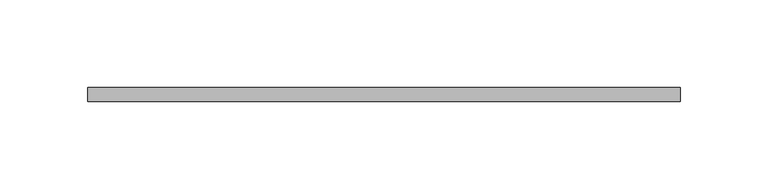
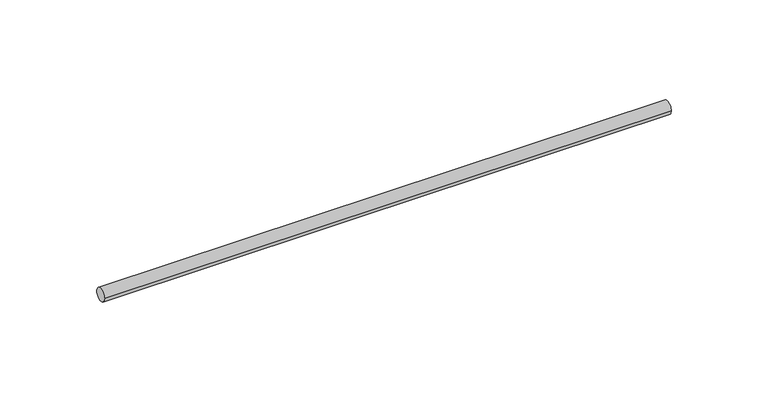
"""IFC4 building model written with IfcOpenShell, lengths in millimetres: valve geometry, Superfix Threaded Rod (used for clamps) : Threaded Rod  Extra  - 1000 mm (used for clamps)."""

from ifc_helpers import new_model, si_unit, point, frame, origin, origin_2d, place, context, project, spatial, circle_curve, trimmed, segment, composite_curve, outline, extrude, source, transform, mapped, element, save


def valve_ca0dcec8(model_context):
    return source(origin(), model_context, "Body", "SweptSolid", [
        extrude(outline(composite_curve([segment(trimmed(circle_curve(origin_2d(), 4.0), [point((-4.0, 0.0))], [point((4.0, 0.0))], False, "CARTESIAN"), True, "CONTINUOUS"), segment(trimmed(circle_curve(origin_2d(), 4.0), [point((4.0, 0.0))], [point((-4.0, 0.0))], False, "CARTESIAN"), True, "CONTINUOUS")], self_intersect=False)), frame((-10.0, 0.0, 0.0), z_axis=(1.0, 0.0, 0.0), x_axis=(0.0, 1.0, 0.0)), (0.0, 0.0, 1.0), 338.0),
    ])


if __name__ == "__main__":
    model = new_model("IFC4")
    model_context = context("Model", 3, world=origin())
    ifc_project = project(units=[si_unit("LENGTHUNIT", "METRE", prefix="MILLI")], contexts=[model_context])
    site = spatial("IfcSite", under=ifc_project)
    building = spatial("IfcBuilding", under=site)
    placement = place(None, origin())
    valve_shape = valve_ca0dcec8(model_context)
    element("IfcValve", 1, ObjectType="Superfix Threaded Rod (used for clamps) : Threaded Rod  Extra  - 1000 mm (used for clamps)", at=placement, inside=building, context=model_context, shape_type="MappedRepresentation", body=[
        mapped(valve_shape, transform((0.0, 0.0, 0.0), x_axis=(1.0, 0.0, 0.0), y_axis=(0.0, 1.0, 0.0), z_axis=(0.0, 0.0, 1.0))),
    ])
    save(model, "model.ifc")
